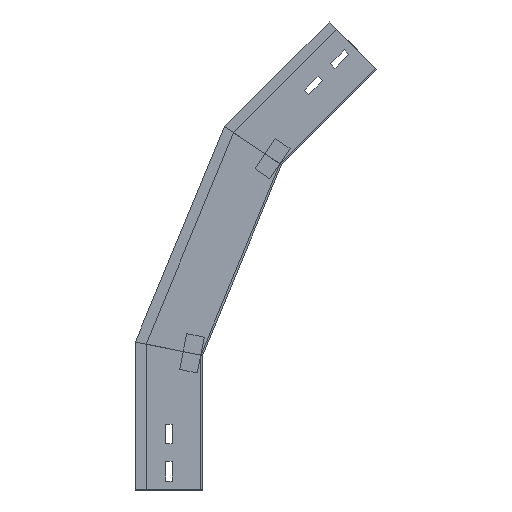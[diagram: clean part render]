
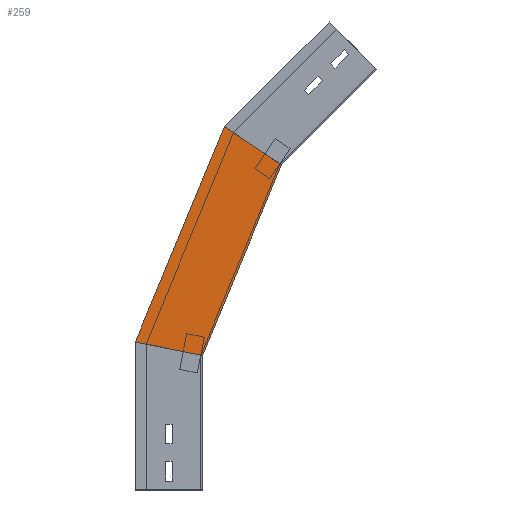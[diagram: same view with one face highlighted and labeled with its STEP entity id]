
A CAD part, left-side view. The second image highlights one B-rep face of the part: STEP entity #259.
In plain terms, the highlighted planar face has unit normal (-1, 0, 0) as drawn and (1, 0, 0) by its records, which use the part's own axes.
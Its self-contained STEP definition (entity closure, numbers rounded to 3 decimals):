
#15 = CARTESIAN_POINT ( 'NONE',  ( 0., -88.017, 362.492 ) ) ;
#22 = DIRECTION ( 'NONE',  ( 0., -0.383, 0.924 ) ) ;
#33 = DIRECTION ( 'NONE',  ( 0., -0.831, -0.556 ) ) ;
#103 = CARTESIAN_POINT ( 'NONE',  ( 0., -24.435, 404.976 ) ) ;
#150 = CARTESIAN_POINT ( 'NONE',  ( 0., 6.318, 134.746 ) ) ;
#196 = VECTOR ( 'NONE', #1269, 1000. ) ;
#238 = CARTESIAN_POINT ( 'NONE',  ( 0., -28.701, 144.291 ) ) ;
#259 = ADVANCED_FACE ( 'NONE', ( #470 ), #814, .T. ) ;
#261 = VECTOR ( 'NONE', #22, 1000. ) ;
#262 = LINE ( 'NONE', #238, #196 ) ;
#277 = CARTESIAN_POINT ( 'NONE',  ( 0., 75.609, 163.448 ) ) ;
#312 = EDGE_CURVE ( 'NONE', #1191, #344, #1407, .T. ) ;
#318 = DIRECTION ( 'NONE',  ( 0., -0.383, 0.924 ) ) ;
#344 = VERTEX_POINT ( 'NONE', #15 ) ;
#351 = VECTOR ( 'NONE', #318, 1000. ) ;
#396 = EDGE_CURVE ( 'NONE', #876, #491, #990, .T. ) ;
#414 = ORIENTED_EDGE ( 'NONE', *, *, #312, .F. ) ;
#417 = ORIENTED_EDGE ( 'NONE', *, *, #1463, .T. ) ;
#470 = FACE_OUTER_BOUND ( 'NONE', #961, .T. ) ;
#491 = VERTEX_POINT ( 'NONE', #103 ) ;
#766 = CARTESIAN_POINT ( 'NONE',  ( 0., 75., 164.918 ) ) ;
#785 = LINE ( 'NONE', #1257, #804 ) ;
#804 = VECTOR ( 'NONE', #33, 1000. ) ;
#814 = PLANE ( 'NONE',  #1367 ) ;
#876 = VERTEX_POINT ( 'NONE', #766 ) ;
#930 = CARTESIAN_POINT ( 'NONE',  ( 0., 0., 150. ) ) ;
#955 = ORIENTED_EDGE ( 'NONE', *, *, #396, .T. ) ;
#961 = EDGE_LOOP ( 'NONE', ( #955, #417, #414, #1043 ) ) ;
#990 = LINE ( 'NONE', #277, #351 ) ;
#1024 = DIRECTION ( 'NONE',  ( 1., 0., 0. ) ) ;
#1038 = DIRECTION ( 'NONE',  ( 0., 0., -1. ) ) ;
#1043 = ORIENTED_EDGE ( 'NONE', *, *, #1495, .F. ) ;
#1047 = CARTESIAN_POINT ( 'NONE',  ( 0., 6.318, 134.746 ) ) ;
#1191 = VERTEX_POINT ( 'NONE', #930 ) ;
#1257 = CARTESIAN_POINT ( 'NONE',  ( 0., -128.004, 335.774 ) ) ;
#1269 = DIRECTION ( 'NONE',  ( 0., -0.981, -0.195 ) ) ;
#1367 = AXIS2_PLACEMENT_3D ( 'NONE', #150, #1024, #1038 ) ;
#1407 = LINE ( 'NONE', #1047, #261 ) ;
#1463 = EDGE_CURVE ( 'NONE', #491, #344, #785, .T. ) ;
#1495 = EDGE_CURVE ( 'NONE', #876, #1191, #262, .T. ) ;
